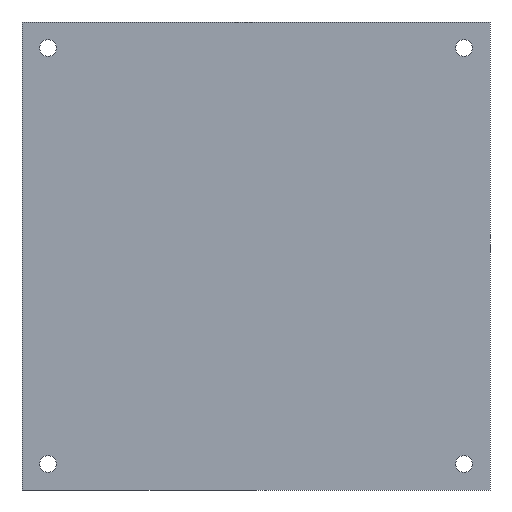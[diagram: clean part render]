
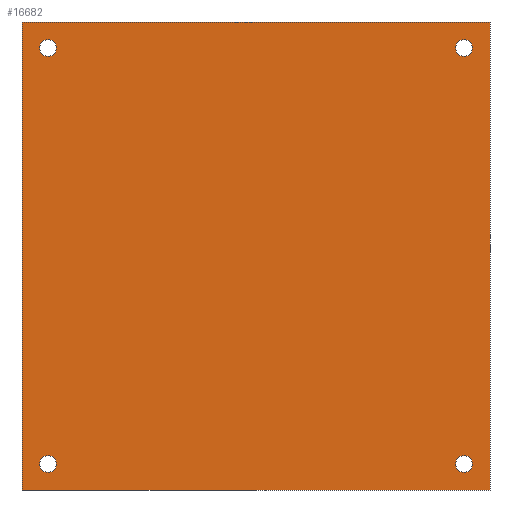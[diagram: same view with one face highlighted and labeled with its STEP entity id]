
A CAD part, front view. The second image highlights one B-rep face of the part: STEP entity #16682.
In plain terms, the highlighted planar face has unit normal (0, -1, 0).
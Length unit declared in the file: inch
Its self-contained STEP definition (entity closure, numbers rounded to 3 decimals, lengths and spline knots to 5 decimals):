
#223 = DIRECTION ( 'NONE',  ( 0., 1., 0. ) ) ;
#229 = CARTESIAN_POINT ( 'NONE',  ( -1.5748, 0., -1.51181 ) ) ;
#449 = LINE ( 'NONE', #14615, #4109 ) ;
#1111 = EDGE_CURVE ( 'NONE', #11587, #7712, #6533, .T. ) ;
#1136 = VERTEX_POINT ( 'NONE', #3630 ) ;
#1299 = CIRCLE ( 'NONE', #17394, 0.06299 ) ;
#1344 = AXIS2_PLACEMENT_3D ( 'NONE', #15689, #223, #12714 ) ;
#1691 = ORIENTED_EDGE ( 'NONE', *, *, #1854, .T. ) ;
#1835 = FACE_OUTER_BOUND ( 'NONE', #15981, .T. ) ;
#1854 = EDGE_CURVE ( 'NONE', #1136, #6422, #16108, .T. ) ;
#1863 = CIRCLE ( 'NONE', #8422, 0.06299 ) ;
#1929 = FACE_BOUND ( 'NONE', #8505, .T. ) ;
#2265 = DIRECTION ( 'NONE',  ( 1., 0., 0. ) ) ;
#2293 = CARTESIAN_POINT ( 'NONE',  ( -1.5748, 0., 1.5748 ) ) ;
#2828 = VERTEX_POINT ( 'NONE', #11544 ) ;
#3077 = ORIENTED_EDGE ( 'NONE', *, *, #7301, .T. ) ;
#3133 = CARTESIAN_POINT ( 'NONE',  ( -1.5748, 0., -1.6378 ) ) ;
#3233 = PLANE ( 'NONE',  #9658 ) ;
#3416 = CARTESIAN_POINT ( 'NONE',  ( 1.5748, 0., -1.5748 ) ) ;
#3630 = CARTESIAN_POINT ( 'NONE',  ( -1.5748, 0., 1.51181 ) ) ;
#4109 = VECTOR ( 'NONE', #10523, 39.37008 ) ;
#4274 = VECTOR ( 'NONE', #2265, 39.37008 ) ;
#4587 = EDGE_CURVE ( 'NONE', #2828, #6048, #16345, .T. ) ;
#4744 = DIRECTION ( 'NONE',  ( 0., -1., 0. ) ) ;
#4746 = ORIENTED_EDGE ( 'NONE', *, *, #16275, .T. ) ;
#5010 = CARTESIAN_POINT ( 'NONE',  ( 1.77165, 0., 1.77165 ) ) ;
#5115 = CARTESIAN_POINT ( 'NONE',  ( 1.5748, 0., -1.6378 ) ) ;
#5296 = DIRECTION ( 'NONE',  ( 0., 1., 0. ) ) ;
#5569 = CIRCLE ( 'NONE', #15978, 0.06299 ) ;
#5916 = CARTESIAN_POINT ( 'NONE',  ( -1.5748, 0., 1.5748 ) ) ;
#5961 = LINE ( 'NONE', #11633, #10630 ) ;
#6048 = VERTEX_POINT ( 'NONE', #5010 ) ;
#6233 = DIRECTION ( 'NONE',  ( 0., 0., -1. ) ) ;
#6317 = DIRECTION ( 'NONE',  ( 0., 0., 1. ) ) ;
#6333 = VERTEX_POINT ( 'NONE', #229 ) ;
#6422 = VERTEX_POINT ( 'NONE', #16878 ) ;
#6434 = CIRCLE ( 'NONE', #1344, 0.06299 ) ;
#6485 = CARTESIAN_POINT ( 'NONE',  ( -1.77165, 0., -1.77165 ) ) ;
#6498 = ORIENTED_EDGE ( 'NONE', *, *, #9996, .F. ) ;
#6519 = DIRECTION ( 'NONE',  ( 0., 1., 0. ) ) ;
#6533 = LINE ( 'NONE', #9321, #13760 ) ;
#6615 = VERTEX_POINT ( 'NONE', #11644 ) ;
#6737 = CIRCLE ( 'NONE', #11484, 0.06299 ) ;
#6973 = VERTEX_POINT ( 'NONE', #3133 ) ;
#7301 = EDGE_CURVE ( 'NONE', #6422, #1136, #6737, .T. ) ;
#7315 = DIRECTION ( 'NONE',  ( 0., 0., 1. ) ) ;
#7712 = VERTEX_POINT ( 'NONE', #6485 ) ;
#7726 = DIRECTION ( 'NONE',  ( 0., 1., 0. ) ) ;
#8193 = DIRECTION ( 'NONE',  ( 0., 0., 1. ) ) ;
#8416 = VERTEX_POINT ( 'NONE', #5115 ) ;
#8422 = AXIS2_PLACEMENT_3D ( 'NONE', #10955, #16808, #16628 ) ;
#8505 = EDGE_LOOP ( 'NONE', ( #17665, #18289 ) ) ;
#8843 = EDGE_CURVE ( 'NONE', #6333, #6973, #16241, .T. ) ;
#8871 = EDGE_CURVE ( 'NONE', #11556, #6615, #6434, .T. ) ;
#8954 = CARTESIAN_POINT ( 'NONE',  ( -1.5748, 0., -1.5748 ) ) ;
#9073 = ORIENTED_EDGE ( 'NONE', *, *, #14311, .T. ) ;
#9117 = EDGE_LOOP ( 'NONE', ( #3077, #1691 ) ) ;
#9120 = FACE_BOUND ( 'NONE', #13975, .T. ) ;
#9261 = CARTESIAN_POINT ( 'NONE',  ( -1.77165, 0., 1.77165 ) ) ;
#9321 = CARTESIAN_POINT ( 'NONE',  ( -1.77165, 0., -1.77165 ) ) ;
#9658 = AXIS2_PLACEMENT_3D ( 'NONE', #10423, #4744, #6233 ) ;
#9776 = CARTESIAN_POINT ( 'NONE',  ( 1.5748, 0., 1.6378 ) ) ;
#9945 = ORIENTED_EDGE ( 'NONE', *, *, #8871, .T. ) ;
#9996 = EDGE_CURVE ( 'NONE', #6048, #11587, #5961, .T. ) ;
#10051 = EDGE_CURVE ( 'NONE', #14559, #8416, #5569, .T. ) ;
#10307 = AXIS2_PLACEMENT_3D ( 'NONE', #16642, #11052, #15323 ) ;
#10423 = CARTESIAN_POINT ( 'NONE',  ( 0., 0., 0. ) ) ;
#10523 = DIRECTION ( 'NONE',  ( 0., 0., 1. ) ) ;
#10630 = VECTOR ( 'NONE', #17322, 39.37008 ) ;
#10658 = CARTESIAN_POINT ( 'NONE',  ( 1.5748, 0., -1.51181 ) ) ;
#10786 = DIRECTION ( 'NONE',  ( 0., 0., 1. ) ) ;
#10955 = CARTESIAN_POINT ( 'NONE',  ( 1.5748, 0., 1.5748 ) ) ;
#11052 = DIRECTION ( 'NONE',  ( 0., 1., 0. ) ) ;
#11212 = EDGE_CURVE ( 'NONE', #7712, #2828, #449, .T. ) ;
#11484 = AXIS2_PLACEMENT_3D ( 'NONE', #2293, #5296, #10786 ) ;
#11544 = CARTESIAN_POINT ( 'NONE',  ( -1.77165, 0., 1.77165 ) ) ;
#11556 = VERTEX_POINT ( 'NONE', #9776 ) ;
#11587 = VERTEX_POINT ( 'NONE', #15997 ) ;
#11633 = CARTESIAN_POINT ( 'NONE',  ( 1.77165, 0., 1.77165 ) ) ;
#11644 = CARTESIAN_POINT ( 'NONE',  ( 1.5748, 0., 1.51181 ) ) ;
#11676 = DIRECTION ( 'NONE',  ( 0., 1., 0. ) ) ;
#11840 = DIRECTION ( 'NONE',  ( 0., 1., 0. ) ) ;
#12714 = DIRECTION ( 'NONE',  ( 0., 0., 1. ) ) ;
#12810 = ORIENTED_EDGE ( 'NONE', *, *, #1111, .F. ) ;
#13760 = VECTOR ( 'NONE', #16307, 39.37008 ) ;
#13770 = CARTESIAN_POINT ( 'NONE',  ( 1.5748, 0., -1.5748 ) ) ;
#13975 = EDGE_LOOP ( 'NONE', ( #14412, #4746 ) ) ;
#14112 = CIRCLE ( 'NONE', #15596, 0.06299 ) ;
#14154 = EDGE_LOOP ( 'NONE', ( #9945, #9073 ) ) ;
#14311 = EDGE_CURVE ( 'NONE', #6615, #11556, #1863, .T. ) ;
#14412 = ORIENTED_EDGE ( 'NONE', *, *, #8843, .T. ) ;
#14559 = VERTEX_POINT ( 'NONE', #10658 ) ;
#14615 = CARTESIAN_POINT ( 'NONE',  ( -1.77165, 0., 1.77165 ) ) ;
#15323 = DIRECTION ( 'NONE',  ( 0., 0., 1. ) ) ;
#15596 = AXIS2_PLACEMENT_3D ( 'NONE', #3416, #7726, #6317 ) ;
#15689 = CARTESIAN_POINT ( 'NONE',  ( 1.5748, 0., 1.5748 ) ) ;
#15978 = AXIS2_PLACEMENT_3D ( 'NONE', #13770, #6519, #8193 ) ;
#15981 = EDGE_LOOP ( 'NONE', ( #17353, #12810, #6498, #17392 ) ) ;
#15997 = CARTESIAN_POINT ( 'NONE',  ( 1.77165, 0., -1.77165 ) ) ;
#16012 = FACE_BOUND ( 'NONE', #14154, .T. ) ;
#16108 = CIRCLE ( 'NONE', #16990, 0.06299 ) ;
#16209 = DIRECTION ( 'NONE',  ( 0., 0., 1. ) ) ;
#16241 = CIRCLE ( 'NONE', #10307, 0.06299 ) ;
#16275 = EDGE_CURVE ( 'NONE', #6973, #6333, #1299, .T. ) ;
#16307 = DIRECTION ( 'NONE',  ( -1., 0., 0. ) ) ;
#16345 = LINE ( 'NONE', #9261, #4274 ) ;
#16628 = DIRECTION ( 'NONE',  ( 0., 0., 1. ) ) ;
#16642 = CARTESIAN_POINT ( 'NONE',  ( -1.5748, 0., -1.5748 ) ) ;
#16682 = ADVANCED_FACE ( 'NONE', ( #1929, #16012, #17411, #9120, #1835 ), #3233, .T. ) ;
#16725 = EDGE_CURVE ( 'NONE', #8416, #14559, #14112, .T. ) ;
#16808 = DIRECTION ( 'NONE',  ( 0., 1., 0. ) ) ;
#16878 = CARTESIAN_POINT ( 'NONE',  ( -1.5748, 0., 1.6378 ) ) ;
#16990 = AXIS2_PLACEMENT_3D ( 'NONE', #5916, #11676, #7315 ) ;
#17322 = DIRECTION ( 'NONE',  ( 0., 0., -1. ) ) ;
#17353 = ORIENTED_EDGE ( 'NONE', *, *, #11212, .F. ) ;
#17392 = ORIENTED_EDGE ( 'NONE', *, *, #4587, .F. ) ;
#17394 = AXIS2_PLACEMENT_3D ( 'NONE', #8954, #11840, #16209 ) ;
#17411 = FACE_BOUND ( 'NONE', #9117, .T. ) ;
#17665 = ORIENTED_EDGE ( 'NONE', *, *, #10051, .T. ) ;
#18289 = ORIENTED_EDGE ( 'NONE', *, *, #16725, .T. ) ;
